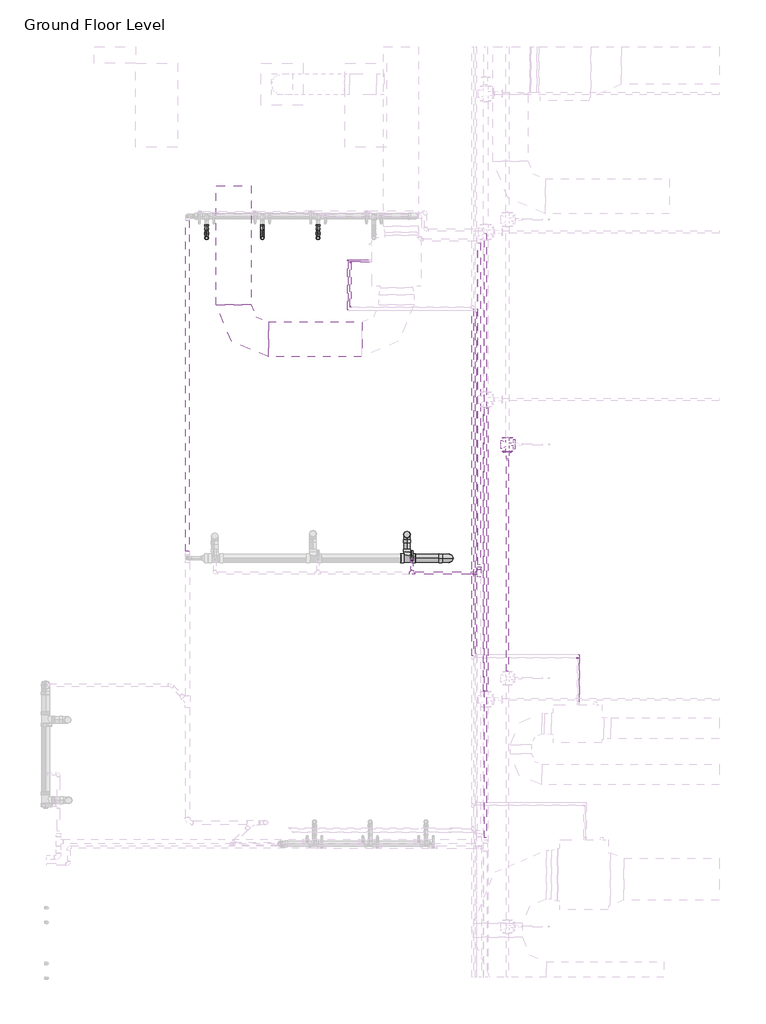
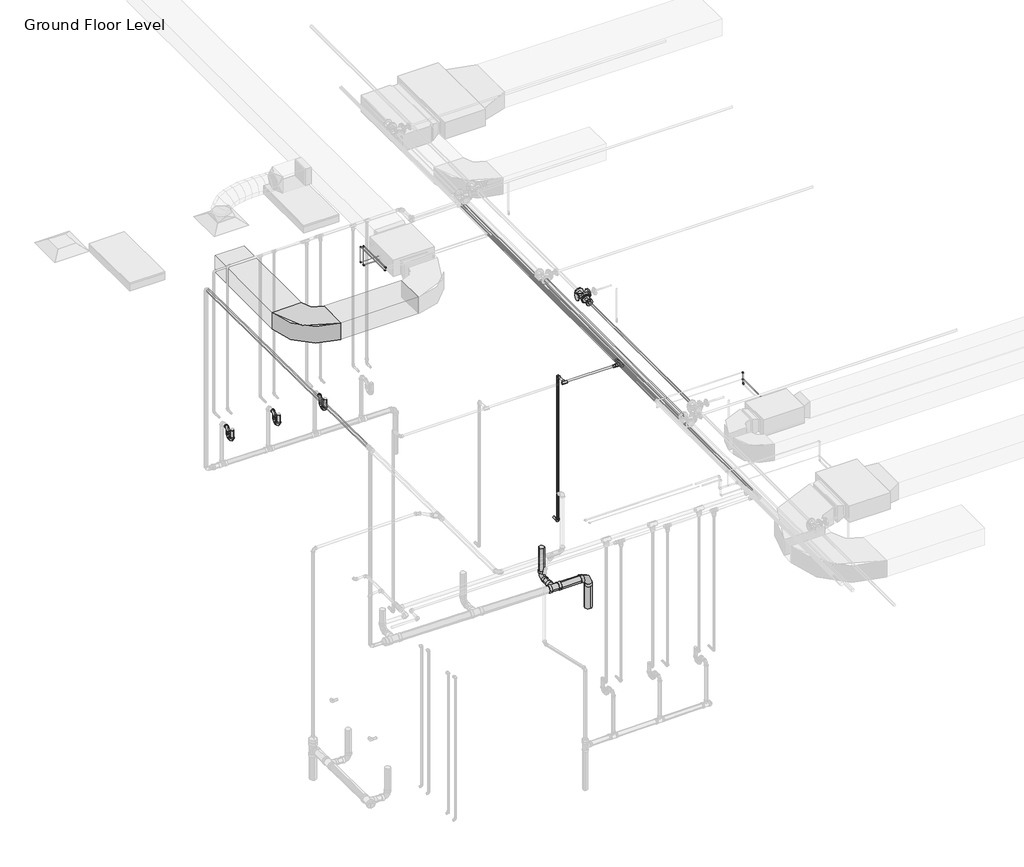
# One storey, part 20 of 66: 32 pipe segments, 29 pipe fittings, 2 duct segments, 1 duct fitting.
"""IFC4 building model written with IfcOpenShell, lengths in millimetres."""

from ifc_helpers import new_model, si_unit, point, frame, frame_2d, origin, place, context, project, spatial, polyline, circle_curve, trimmed, segment, composite_curve, outline, extrude, transform, mapped, element, save
from components import m_rectangular_elbow_radius_1_w_abe20169, m_bend_pvc_sch_40_dwv_standard_a4b99d37, m_bend_pvc_sch_40_dwv_standard_aa7efa4c, m_bend_pvc_sch_40_dwv_standard_1e7bdcc1, m_bend_pvc_sch_40_dwv_standard_776e50c4, m_elbow_generic_standard_a088f956, m_elbow_generic_standard_2a704253, m_reducer_flanged_cs_class_150_standard_b6b67c23, m_tee_reducing_sanitary_pvc_sch_40_dwv_standard_b49161a9, m_tee_round_base_flanged_cs_class_150_standard_9c9133d0, standard_517a5a8d, standard_72b35c3b, standard_08ff6011, standard_d0d0b892

model = new_model("IFC4")

# Units and contexts
model_context = context("Model", 3, world=origin())
ifc_project = project(units=[si_unit("LENGTHUNIT", "METRE", prefix="MILLI")], contexts=[model_context])

# Site, building, storey
site = spatial("IfcSite", under=ifc_project)
building = spatial("IfcBuilding", under=site)
storey = spatial("IfcBuildingStorey", under=building, Name="Ground Floor Level", Elevation=900.0)

# Duct fitting
placement = place(None, origin())
m_rectangular_elbow_radius_1_w_shape = m_rectangular_elbow_radius_1_w_abe20169(model_context)
element("IfcDuctFitting", 1, ObjectType="M_Rectangular Elbow - Radius : 1 W", at=placement, inside=storey, context=model_context, shape_type="MappedRepresentation", body=[
    mapped(m_rectangular_elbow_radius_1_w_shape, transform((2065.6581888, -25622.6440715, 4075.2875), x_axis=(0.0, -1.0, 0.0), y_axis=(1.0, 0.0, 0.0), z_axis=(0.0, 0.0, 1.0))),
])

# Duct segments
element("IfcDuctSegment", 2, ObjectType="Radius Elbows / Taps", at=placement, inside=storey, context=model_context, shape_type="SweptSolid", body=[
    extrude(outline(polyline([(0.0, -500.0), (0.0, 0.0), (1339.9999945, 0.0), (1339.9999945, -500.0), (0.0, -500.0)])), frame((3905.660192, -25872.6440715, 3925.3054453), z_axis=(-1.3392036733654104e-05, 0.0, 0.9999999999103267), x_axis=(-0.9999999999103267, 0.0, -1.3392036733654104e-05)), (0.0, 0.0, 1.0), 300.0),
])
element("IfcDuctSegment", 3, ObjectType="Radius Elbows / Taps", at=placement, inside=storey, context=model_context, shape_type="SweptSolid", body=[
    extrude(outline(polyline([(2315.6581888, -25122.6440715), (1815.6581888, -25122.6440715), (1815.6581888, -23422.6440715), (2315.6581888, -23422.6440715), (2315.6581888, -25122.6440715)])), frame((0.0, 0.0, 3925.2875), z_axis=(0.0, 0.0, 1.0), x_axis=(1.0, 0.0, 0.0)), (0.0, 0.0, 1.0), 300.0),
])

# Pipe fittings
m_bend_pvc_sch_40_dwv_standard_shape = m_bend_pvc_sch_40_dwv_standard_a4b99d37(model_context)
element("IfcPipeFitting", 4, ObjectType="M_Bend - PVC - Sch 40 - DWV : Standard", at=placement, inside=storey, context=model_context, shape_type="MappedRepresentation", body=[
    mapped(m_bend_pvc_sch_40_dwv_standard_shape, transform((4553.7150181, -28421.2419494, 454.489269), x_axis=(0.0, 0.0, -1.0), y_axis=(0.0, -1.0, 0.0), z_axis=(-1.0, 0.0, 0.0))),
])
m_bend_pvc_sch_40_dwv_standard_2_shape = m_bend_pvc_sch_40_dwv_standard_aa7efa4c(model_context)
element("IfcPipeFitting", 5, ObjectType="M_Bend - PVC - Sch 40 - DWV : Standard", at=placement, inside=storey, context=model_context, shape_type="MappedRepresentation", body=[
    mapped(m_bend_pvc_sch_40_dwv_standard_2_shape, transform((5158.4803359, -28761.5689421, 448.4416158), x_axis=(0.9999500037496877, 0.0, -0.00999950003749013), y_axis=(-0.00999950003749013, 0.0, -0.9999500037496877), z_axis=(0.0, 1.0, 0.0))),
])
m_bend_pvc_sch_40_dwv_standard_3_shape = m_bend_pvc_sch_40_dwv_standard_1e7bdcc1(model_context)
element("IfcPipeFitting", 6, ObjectType="M_Bend - PVC - Sch 40 - DWV : Standard", at=placement, inside=storey, context=model_context, shape_type="MappedRepresentation", body=[
    mapped(m_bend_pvc_sch_40_dwv_standard_3_shape, transform((1678.7498, -24168.3528578, 1360.0000049), x_axis=(0.0, 0.0, -1.0), y_axis=(0.0, 1.0, 0.0), z_axis=(1.0, 0.0, 0.0))),
])
element("IfcPipeFitting", 7, ObjectType="M_Bend - PVC - Sch 40 - DWV : Standard", at=placement, inside=storey, context=model_context, shape_type="MappedRepresentation", body=[
    mapped(m_bend_pvc_sch_40_dwv_standard_3_shape, transform((2478.7498, -24168.3528578, 1360.00001), x_axis=(0.0, -0.9999500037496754, 0.009999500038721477), y_axis=(0.0, 0.009999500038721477, 0.9999500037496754), z_axis=(-1.0, 0.0, 0.0))),
])
element("IfcPipeFitting", 8, ObjectType="M_Bend - PVC - Sch 40 - DWV : Standard", at=placement, inside=storey, context=model_context, shape_type="MappedRepresentation", body=[
    mapped(m_bend_pvc_sch_40_dwv_standard_3_shape, transform((3278.7498, -24168.3528578, 1360.0000049), x_axis=(0.0, -0.9999500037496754, 0.009999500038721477), y_axis=(0.0, 0.009999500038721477, 0.9999500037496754), z_axis=(-1.0, 0.0, 0.0))),
])
m_bend_pvc_sch_40_dwv_standard_4_shape = m_bend_pvc_sch_40_dwv_standard_776e50c4(model_context)
element("IfcPipeFitting", 9, ObjectType="M_Bend - PVC - Sch 40 - DWV : Standard", at=placement, inside=storey, context=model_context, shape_type="MappedRepresentation", body=[
    mapped(m_bend_pvc_sch_40_dwv_standard_4_shape, transform((1678.7498, -24038.3523645, 1358.7), x_axis=(0.0, 0.9999500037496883, -0.009999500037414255), y_axis=(0.0, 0.009999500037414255, 0.9999500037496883), z_axis=(1.0, 0.0, 0.0))),
])
element("IfcPipeFitting", 10, ObjectType="M_Bend - PVC - Sch 40 - DWV : Standard", at=placement, inside=storey, context=model_context, shape_type="MappedRepresentation", body=[
    mapped(m_bend_pvc_sch_40_dwv_standard_4_shape, transform((1678.7498, -24038.3523645, 1510.0493267), x_axis=(0.0, 0.0, 1.0), y_axis=(0.0, 1.0, 0.0), z_axis=(-1.0, 0.0, 0.0))),
])
element("IfcPipeFitting", 11, ObjectType="M_Bend - PVC - Sch 40 - DWV : Standard", at=placement, inside=storey, context=model_context, shape_type="MappedRepresentation", body=[
    mapped(m_bend_pvc_sch_40_dwv_standard_4_shape, transform((2478.7498, -24038.3518579, 1358.7), x_axis=(0.0, 0.9999500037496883, -0.009999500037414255), y_axis=(0.0, 0.009999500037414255, 0.9999500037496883), z_axis=(1.0, 0.0, 0.0))),
])
element("IfcPipeFitting", 12, ObjectType="M_Bend - PVC - Sch 40 - DWV : Standard", at=placement, inside=storey, context=model_context, shape_type="MappedRepresentation", body=[
    mapped(m_bend_pvc_sch_40_dwv_standard_4_shape, transform((2478.7498, -24038.3518579, 1510.09999), x_axis=(0.0, 0.0, 1.0), y_axis=(0.0, 1.0, 0.0), z_axis=(-1.0, 0.0, 0.0))),
])
element("IfcPipeFitting", 13, ObjectType="M_Bend - PVC - Sch 40 - DWV : Standard", at=placement, inside=storey, context=model_context, shape_type="MappedRepresentation", body=[
    mapped(m_bend_pvc_sch_40_dwv_standard_4_shape, transform((3278.7498, -24038.3523645, 1358.7), x_axis=(0.0, 0.9999500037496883, -0.009999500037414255), y_axis=(0.0, 0.009999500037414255, 0.9999500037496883), z_axis=(1.0, 0.0, 0.0))),
])
element("IfcPipeFitting", 14, ObjectType="M_Bend - PVC - Sch 40 - DWV : Standard", at=placement, inside=storey, context=model_context, shape_type="MappedRepresentation", body=[
    mapped(m_bend_pvc_sch_40_dwv_standard_4_shape, transform((3278.7498, -24038.3523645, 1510.0493267), x_axis=(0.0, 0.0, 1.0), y_axis=(0.0, 1.0, 0.0), z_axis=(-1.0, 0.0, 0.0))),
])
m_elbow_generic_standard_shape = m_elbow_generic_standard_a088f956(model_context)
element("IfcPipeFitting", 15, ObjectType="M_Elbow - Generic : Standard", at=placement, inside=storey, context=model_context, shape_type="MappedRepresentation", body=[
    mapped(m_elbow_generic_standard_shape, transform((7003.8644074, -30187.4513653, 4390.0), x_axis=(1.0, 0.0, 0.0), y_axis=(0.0, 0.0, -1.0), z_axis=(0.0, 1.0, 0.0))),
])
element("IfcPipeFitting", 16, ObjectType="M_Elbow - Generic : Standard", at=placement, inside=storey, context=model_context, shape_type="MappedRepresentation", body=[
    mapped(m_elbow_generic_standard_shape, transform((7003.8644074, -30187.4513653, 4180.0), x_axis=(0.0, 0.0, -1.0), y_axis=(0.0, -1.0, 0.0), z_axis=(-1.0, 0.0, 0.0))),
])
element("IfcPipeFitting", 17, ObjectType="M_Elbow - Generic : Standard", at=placement, inside=storey, context=model_context, shape_type="MappedRepresentation", body=[
    mapped(m_elbow_generic_standard_shape, transform((3741.7995393, -24507.2440715, 4034.0875), x_axis=(-1.0, 0.0, 0.0), y_axis=(0.0, 0.0, 1.0), z_axis=(0.0, 1.0, 0.0))),
])
element("IfcPipeFitting", 18, ObjectType="M_Elbow - Generic : Standard", at=placement, inside=storey, context=model_context, shape_type="MappedRepresentation", body=[
    mapped(m_elbow_generic_standard_shape, transform((3741.7995393, -24507.2440715, 4390.0), x_axis=(0.0, 0.0, 1.0), y_axis=(0.0, -1.0, 0.0), z_axis=(1.0, 0.0, 0.0))),
])
element("IfcPipeFitting", 19, ObjectType="M_Elbow - Generic : Standard", at=placement, inside=storey, context=model_context, shape_type="MappedRepresentation", body=[
    mapped(m_elbow_generic_standard_shape, transform((3741.7995393, -25162.0896488, 4390.0), x_axis=(0.0, -1.0, 0.0), y_axis=(1.0, 0.0, 0.0), z_axis=(0.0, 0.0, 1.0))),
])
m_elbow_generic_standard_2_shape = m_elbow_generic_standard_2a704253(model_context)
element("IfcPipeFitting", 20, ObjectType="M_Elbow - Generic : Standard", at=placement, inside=storey, context=model_context, shape_type="MappedRepresentation", body=[
    mapped(m_elbow_generic_standard_2_shape, transform((3705.4496688, -24482.2440715, 4084.8875), x_axis=(-1.0, 0.0, 0.0), y_axis=(0.0, 0.0, 1.0), z_axis=(0.0, 1.0, 0.0))),
])
element("IfcPipeFitting", 21, ObjectType="M_Elbow - Generic : Standard", at=placement, inside=storey, context=model_context, shape_type="MappedRepresentation", body=[
    mapped(m_elbow_generic_standard_2_shape, transform((3705.4496688, -24482.2440715, 4377.5), x_axis=(0.0, 0.0, 1.0), y_axis=(0.0, -1.0, 0.0), z_axis=(1.0, 0.0, 0.0))),
])
element("IfcPipeFitting", 22, ObjectType="M_Elbow - Generic : Standard", at=placement, inside=storey, context=model_context, shape_type="MappedRepresentation", body=[
    mapped(m_elbow_generic_standard_2_shape, transform((3705.4496688, -25206.4899508, 4377.5), x_axis=(0.0, -1.0, 0.0), y_axis=(1.0, 0.0, 0.0), z_axis=(0.0, 0.0, 1.0))),
])
element("IfcPipeFitting", 23, ObjectType="M_Elbow - Generic : Standard", at=placement, inside=storey, context=model_context, shape_type="MappedRepresentation", body=[
    mapped(m_elbow_generic_standard_2_shape, transform((7028.8644074, -30144.9316538, 4230.8), x_axis=(0.0, 1.0, 0.0), y_axis=(-1.0, 0.0, 0.0), z_axis=(0.0, 0.0, 1.0))),
])
m_reducer_flanged_cs_class_150_standard_shape = m_reducer_flanged_cs_class_150_standard_b6b67c23(model_context)
element("IfcPipeFitting", 24, ObjectType="M_Reducer - Flanged - CS - Class 150 : Standard", at=placement, inside=storey, context=model_context, shape_type="MappedRepresentation", body=[
    mapped(m_reducer_flanged_cs_class_150_standard_shape, transform((5997.057812, -27235.4968297, 4291.0943441), x_axis=(0.0, -1.0, 0.0), y_axis=(1.0, 0.0, 0.0), z_axis=(0.0, 0.0, 1.0))),
])
m_tee_reducing_sanitary_pvc_sch_40_dwv_standard_shape = m_tee_reducing_sanitary_pvc_sch_40_dwv_standard_b49161a9(model_context)
element("IfcPipeFitting", 25, ObjectType="M_Tee Reducing Sanitary - PVC - Sch 40 - DWV : Standard", at=placement, inside=storey, context=model_context, shape_type="MappedRepresentation", body=[
    mapped(m_tee_reducing_sanitary_pvc_sch_40_dwv_standard_shape, transform((4553.7150181, -28761.5689421, 454.489269), x_axis=(-0.9999500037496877, 0.0, 0.009999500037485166), y_axis=(0.0, -1.0, 0.0), z_axis=(0.009999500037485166, 0.0, 0.9999500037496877))),
])
m_tee_round_base_flanged_cs_class_150_standard_shape = m_tee_round_base_flanged_cs_class_150_standard_9c9133d0(model_context)
element("IfcPipeFitting", 26, ObjectType="M_Tee Round Base - Flanged - CS - Class 150 : Standard", at=placement, inside=storey, context=model_context, shape_type="MappedRepresentation", body=[
    mapped(m_tee_round_base_flanged_cs_class_150_standard_shape, transform((5997.057812, -27129.3982359, 4291.0943441), x_axis=(0.0, 1.0, 0.0), y_axis=(-1.0, 0.0, 0.0), z_axis=(0.0, 0.0, 1.0))),
])
standard_shape = standard_517a5a8d(model_context)
element("IfcPipeFitting", 27, ObjectType="M_Elbow - CPVC - Sch 40 : Standard", at=placement, inside=storey, context=model_context, shape_type="MappedRepresentation", body=[
    mapped(standard_shape, transform((4627.1152882, -28774.7846466, 1655.0), x_axis=(0.0, -1.0, 0.0), y_axis=(0.0, 0.0, 1.0), z_axis=(-1.0, 0.0, 0.0))),
])
element("IfcPipeFitting", 28, ObjectType="M_Elbow - CPVC - Sch 40 : Standard", at=placement, inside=storey, context=model_context, shape_type="MappedRepresentation", body=[
    mapped(standard_shape, transform((4627.1152882, -28774.7846466, 4300.0), x_axis=(0.0, 0.0, 1.0), y_axis=(0.0, -1.0, 0.0), z_axis=(1.0, 0.0, 0.0))),
])
standard_2_shape = standard_72b35c3b(model_context)
element("IfcPipeFitting", 29, ObjectType="M_Tee - CPVC - Sch 40 : Standard", at=placement, inside=storey, context=model_context, shape_type="MappedRepresentation", body=[
    mapped(standard_2_shape, transform((4627.1152882, -28974.7846466, 4300.0), x_axis=(-1.0, 0.0, 0.0), y_axis=(0.0, -1.0, 0.0), z_axis=(0.0, 0.0, 1.0))),
])
standard_3_shape = standard_08ff6011(model_context)
element("IfcPipeFitting", 30, ObjectType="M_Tee - CPVC - Sch 40 : Standard", at=placement, inside=storey, context=model_context, shape_type="MappedRepresentation", body=[
    mapped(standard_3_shape, transform((5589.646628, -28974.7846466, 4300.0), x_axis=(0.0, 1.0, 0.0), y_axis=(1.0, 0.0, 0.0), z_axis=(0.0, 0.0, -1.0))),
])
standard_4_shape = standard_d0d0b892(model_context)
element("IfcPipeFitting", 31, ObjectType="M_Coupling Reducing - CPVC - Sch 40 : Standard", at=placement, inside=storey, context=model_context, shape_type="MappedRepresentation", body=[
    mapped(standard_4_shape, transform((5589.646628, -28920.8096466, 4300.0), x_axis=(0.0, 1.0, 0.0), y_axis=(-1.0, 0.0, 0.0), z_axis=(0.0, 0.0, 1.0))),
])
element("IfcPipeFitting", 32, ObjectType="M_Coupling Reducing - CPVC - Sch 40 : Standard", at=placement, inside=storey, context=model_context, shape_type="MappedRepresentation", body=[
    mapped(standard_4_shape, transform((5535.671628, -28974.7846466, 4300.0), x_axis=(-1.0, 0.0, 0.0), y_axis=(0.0, -1.0, 0.0), z_axis=(0.0, 0.0, 1.0))),
])

# Pipe segments
element("IfcPipeSegment", 33, ObjectType="CPVC", at=placement, inside=storey, context=model_context, shape_type="SweptSolid", body=[
    extrude(outline(composite_curve([segment(trimmed(circle_curve(frame_2d((1655.0, 4627.1152882)), 16.7005), [point((1655.0, 4610.4147882))], [point((1638.2995, 4627.1152882))], False, "CARTESIAN"), True, "CONTINUOUS"), segment(trimmed(circle_curve(frame_2d((1655.0, 4627.1152882)), 16.7005), [point((1638.2995, 4627.1152882))], [point((1655.0, 4643.8157882))], False, "CARTESIAN"), True, "CONTINUOUS"), segment(trimmed(circle_curve(frame_2d((1655.0, 4627.1152882)), 16.7005), [point((1655.0, 4643.8157882))], [point((1671.7005, 4627.1152882))], False, "CARTESIAN"), True, "CONTINUOUS"), segment(trimmed(circle_curve(frame_2d((1655.0, 4627.1152882)), 16.7005), [point((1671.7005, 4627.1152882))], [point((1655.0, 4610.4147882))], False, "CARTESIAN"), True, "CONTINUOUS")], self_intersect=False)), frame((0.0, -28731.5220966, 0.0), z_axis=(0.0, 1.0, 0.0), x_axis=(0.0, 0.0, 1.0)), (0.0, 0.0, 1.0), 76.73745),
])
element("IfcPipeSegment", 34, ObjectType="CPVC", at=placement, inside=storey, context=model_context, shape_type="SweptSolid", body=[
    extrude(outline(composite_curve([segment(trimmed(circle_curve(frame_2d((4300.0, 4627.1152882)), 16.7005), [point((4300.0, 4610.4147882))], [point((4283.2995, 4627.1152882))], False, "CARTESIAN"), True, "CONTINUOUS"), segment(trimmed(circle_curve(frame_2d((4300.0, 4627.1152882)), 16.7005), [point((4283.2995, 4627.1152882))], [point((4300.0, 4643.8157882))], False, "CARTESIAN"), True, "CONTINUOUS"), segment(trimmed(circle_curve(frame_2d((4300.0, 4627.1152882)), 16.7005), [point((4300.0, 4643.8157882))], [point((4316.7005, 4627.1152882))], False, "CARTESIAN"), True, "CONTINUOUS"), segment(trimmed(circle_curve(frame_2d((4300.0, 4627.1152882)), 16.7005), [point((4316.7005, 4627.1152882))], [point((4300.0, 4610.4147882))], False, "CARTESIAN"), True, "CONTINUOUS")], self_intersect=False)), frame((0.0, -28935.0844466, 0.0), z_axis=(0.0, 1.0, 0.0), x_axis=(0.0, 0.0, 1.0)), (0.0, 0.0, 1.0), 117.03725),
])
element("IfcPipeSegment", 35, ObjectType="CPVC", at=placement, inside=storey, context=model_context, shape_type="SweptSolid", body=[
    extrude(outline(composite_curve([segment(trimmed(circle_curve(frame_2d((4627.1152882, -28774.7846466)), 16.7005), [point((4610.4147882, -28774.7846466))], [point((4627.1152882, -28758.0841466))], False, "CARTESIAN"), True, "CONTINUOUS"), segment(trimmed(circle_curve(frame_2d((4627.1152882, -28774.7846466)), 16.7005), [point((4627.1152882, -28758.0841466))], [point((4643.8157882, -28774.7846466))], False, "CARTESIAN"), True, "CONTINUOUS"), segment(trimmed(circle_curve(frame_2d((4627.1152882, -28774.7846466)), 16.7005), [point((4643.8157882, -28774.7846466))], [point((4627.1152882, -28791.4851466))], False, "CARTESIAN"), True, "CONTINUOUS"), segment(trimmed(circle_curve(frame_2d((4627.1152882, -28774.7846466)), 16.7005), [point((4627.1152882, -28791.4851466))], [point((4610.4147882, -28774.7846466))], False, "CARTESIAN"), True, "CONTINUOUS")], self_intersect=False)), frame((0.0, 0.0, 1698.26255), z_axis=(0.0, 0.0, 1.0), x_axis=(1.0, 0.0, 0.0)), (0.0, 0.0, 1.0), 2558.4749),
])
element("IfcPipeSegment", 36, ObjectType="CPVC", at=placement, inside=storey, context=model_context, shape_type="SweptSolid", body=[
    extrude(outline(composite_curve([segment(trimmed(circle_curve(frame_2d((-28974.7846466, 4300.0)), 16.7005), [point((-28958.0841466, 4300.0))], [point((-28974.7846466, 4283.2995))], False, "CARTESIAN"), True, "CONTINUOUS"), segment(trimmed(circle_curve(frame_2d((-28974.7846466, 4300.0)), 16.7005), [point((-28974.7846466, 4283.2995))], [point((-28991.4851466, 4300.0))], False, "CARTESIAN"), True, "CONTINUOUS"), segment(trimmed(circle_curve(frame_2d((-28974.7846466, 4300.0)), 16.7005), [point((-28991.4851466, 4300.0))], [point((-28974.7846466, 4316.7005))], False, "CARTESIAN"), True, "CONTINUOUS"), segment(trimmed(circle_curve(frame_2d((-28974.7846466, 4300.0)), 16.7005), [point((-28974.7846466, 4316.7005))], [point((-28958.0841466, 4300.0))], False, "CARTESIAN"), True, "CONTINUOUS")], self_intersect=False)), frame((4666.8154882, 0.0, 0.0), z_axis=(1.0, 0.0, 0.0), x_axis=(0.0, 1.0, 0.0)), (0.0, 0.0, 1.0), 802.7372648),
])
element("IfcPipeSegment", 37, ObjectType="CPVC", at=placement, inside=storey, context=model_context, shape_type="SweptSolid", body=[
    extrude(outline(composite_curve([segment(trimmed(circle_curve(frame_2d((4300.0, 5589.646628)), 16.7005), [point((4300.0, 5572.946128))], [point((4283.2995, 5589.646628))], False, "CARTESIAN"), True, "CONTINUOUS"), segment(trimmed(circle_curve(frame_2d((4300.0, 5589.646628)), 16.7005), [point((4283.2995, 5589.646628))], [point((4300.0, 5606.347128))], False, "CARTESIAN"), True, "CONTINUOUS"), segment(trimmed(circle_curve(frame_2d((4300.0, 5589.646628)), 16.7005), [point((4300.0, 5606.347128))], [point((4316.7005, 5589.646628))], False, "CARTESIAN"), True, "CONTINUOUS"), segment(trimmed(circle_curve(frame_2d((4300.0, 5589.646628)), 16.7005), [point((4316.7005, 5589.646628))], [point((4300.0, 5572.946128))], False, "CARTESIAN"), True, "CONTINUOUS")], self_intersect=False)), frame((0.0, -28854.6907716, 0.0), z_axis=(0.0, 1.0, 0.0), x_axis=(0.0, 0.0, 1.0)), (0.0, 0.0, 1.0), 4615.6456784),
])
element("IfcPipeSegment", 38, ObjectType="CPVC", at=placement, inside=storey, context=model_context, shape_type="SweptSolid", body=[
    extrude(outline(composite_curve([segment(trimmed(circle_curve(frame_2d((4250.0, 5680.5575802)), 16.7005), [point((4250.0, 5697.2580802))], [point((4266.7005, 5680.5575802))], False, "CARTESIAN"), True, "CONTINUOUS"), segment(trimmed(circle_curve(frame_2d((4250.0, 5680.5575802)), 16.7005), [point((4266.7005, 5680.5575802))], [point((4250.0, 5663.8570802))], False, "CARTESIAN"), True, "CONTINUOUS"), segment(trimmed(circle_curve(frame_2d((4250.0, 5680.5575802)), 16.7005), [point((4250.0, 5663.8570802))], [point((4233.2995, 5680.5575802))], False, "CARTESIAN"), True, "CONTINUOUS"), segment(trimmed(circle_curve(frame_2d((4250.0, 5680.5575802)), 16.7005), [point((4233.2995, 5680.5575802))], [point((4250.0, 5697.2580802))], False, "CARTESIAN"), True, "CONTINUOUS")], self_intersect=False)), frame((0.0, -32774.921633, 0.0), z_axis=(0.0, 1.0, 0.0), x_axis=(0.0, 0.0, 1.0)), (0.0, 0.0, 1.0), 8676.73745),
])
element("IfcPipeSegment", 39, ObjectType="Copper", at=placement, inside=storey, context=model_context, shape_type="SweptSolid", body=[
    extrude(outline(composite_curve([segment(trimmed(circle_curve(frame_2d((4230.8, 7028.8644074)), 3.35), [point((4230.8, 7025.5144074))], [point((4227.45, 7028.8644074))], False, "CARTESIAN"), True, "CONTINUOUS"), segment(trimmed(circle_curve(frame_2d((4230.8, 7028.8644074)), 3.35), [point((4227.45, 7028.8644074))], [point((4230.8, 7032.2144074))], False, "CARTESIAN"), True, "CONTINUOUS"), segment(trimmed(circle_curve(frame_2d((4230.8, 7028.8644074)), 3.35), [point((4230.8, 7032.2144074))], [point((4234.15, 7028.8644074))], False, "CARTESIAN"), True, "CONTINUOUS"), segment(trimmed(circle_curve(frame_2d((4230.8, 7028.8644074)), 3.35), [point((4234.15, 7028.8644074))], [point((4230.8, 7025.5144074))], False, "CARTESIAN"), True, "CONTINUOUS")], self_intersect=False)), frame((0.0, -30823.5877703, 0.0), z_axis=(0.0, 1.0, 0.0), x_axis=(0.0, 0.0, 1.0)), (0.0, 0.0, 1.0), 667.5186165),
])
element("IfcPipeSegment", 40, ObjectType="Copper", at=placement, inside=storey, context=model_context, shape_type="SweptSolid", body=[
    extrude(outline(composite_curve([segment(trimmed(circle_curve(frame_2d((7003.8644074, -30187.4513653)), 6.5), [point((7010.3644074, -30187.4513653))], [point((7003.8644074, -30193.9513653))], False, "CARTESIAN"), True, "CONTINUOUS"), segment(trimmed(circle_curve(frame_2d((7003.8644074, -30187.4513653)), 6.5), [point((7003.8644074, -30193.9513653))], [point((6997.3644074, -30187.4513653))], False, "CARTESIAN"), True, "CONTINUOUS"), segment(trimmed(circle_curve(frame_2d((7003.8644074, -30187.4513653)), 6.5), [point((6997.3644074, -30187.4513653))], [point((7003.8644074, -30180.9513653))], False, "CARTESIAN"), True, "CONTINUOUS"), segment(trimmed(circle_curve(frame_2d((7003.8644074, -30187.4513653)), 6.5), [point((7003.8644074, -30180.9513653))], [point((7010.3644074, -30187.4513653))], False, "CARTESIAN"), True, "CONTINUOUS")], self_intersect=False)), frame((0.0, 0.0, 4194.2875), z_axis=(0.0, 0.0, 1.0), x_axis=(1.0, 0.0, 0.0)), (0.0, 0.0, 1.0), 181.425),
])
element("IfcPipeSegment", 41, ObjectType="Copper", at=placement, inside=storey, context=model_context, shape_type="SweptSolid", body=[
    extrude(outline(composite_curve([segment(trimmed(circle_curve(frame_2d((4377.5, 3705.4496688)), 3.35), [point((4377.5, 3702.0996688))], [point((4374.15, 3705.4496688))], False, "CARTESIAN"), True, "CONTINUOUS"), segment(trimmed(circle_curve(frame_2d((4377.5, 3705.4496688)), 3.35), [point((4374.15, 3705.4496688))], [point((4377.5, 3708.7996688))], False, "CARTESIAN"), True, "CONTINUOUS"), segment(trimmed(circle_curve(frame_2d((4377.5, 3705.4496688)), 3.35), [point((4377.5, 3708.7996688))], [point((4380.85, 3705.4496688))], False, "CARTESIAN"), True, "CONTINUOUS"), segment(trimmed(circle_curve(frame_2d((4377.5, 3705.4496688)), 3.35), [point((4380.85, 3705.4496688))], [point((4377.5, 3702.0996688))], False, "CARTESIAN"), True, "CONTINUOUS")], self_intersect=False)), frame((0.0, -25195.3524508, 0.0), z_axis=(0.0, 1.0, 0.0), x_axis=(0.0, 0.0, 1.0)), (0.0, 0.0, 1.0), 701.9708793),
])
element("IfcPipeSegment", 42, ObjectType="Copper", at=placement, inside=storey, context=model_context, shape_type="SweptSolid", body=[
    extrude(outline(composite_curve([segment(trimmed(circle_curve(frame_2d((4390.0, 3741.7995393)), 6.5), [point((4390.0, 3735.2995393))], [point((4383.5, 3741.7995393))], False, "CARTESIAN"), True, "CONTINUOUS"), segment(trimmed(circle_curve(frame_2d((4390.0, 3741.7995393)), 6.5), [point((4383.5, 3741.7995393))], [point((4390.0, 3748.2995393))], False, "CARTESIAN"), True, "CONTINUOUS"), segment(trimmed(circle_curve(frame_2d((4390.0, 3741.7995393)), 6.5), [point((4390.0, 3748.2995393))], [point((4396.5, 3741.7995393))], False, "CARTESIAN"), True, "CONTINUOUS"), segment(trimmed(circle_curve(frame_2d((4390.0, 3741.7995393)), 6.5), [point((4396.5, 3741.7995393))], [point((4390.0, 3735.2995393))], False, "CARTESIAN"), True, "CONTINUOUS")], self_intersect=False)), frame((0.0, -25147.8021488, 0.0), z_axis=(0.0, 1.0, 0.0), x_axis=(0.0, 0.0, 1.0)), (0.0, 0.0, 1.0), 626.2705772),
])
element("IfcPipeSegment", 43, ObjectType="Copper", at=placement, inside=storey, context=model_context, shape_type="SweptSolid", body=[
    extrude(outline(composite_curve([segment(trimmed(circle_curve(frame_2d((0.0, -6.5)), 6.5), [point((-6.5, -6.5))], [point((1e-07, 0.0))], False, "CARTESIAN"), True, "CONTINUOUS"), segment(trimmed(circle_curve(frame_2d((0.0, -6.5)), 6.5), [point((1e-07, 0.0))], [point((6.5, -6.5))], False, "CARTESIAN"), True, "CONTINUOUS"), segment(trimmed(circle_curve(frame_2d((0.0, -6.5)), 6.5), [point((6.5, -6.5))], [point((0.0, -13.0))], False, "CARTESIAN"), True, "CONTINUOUS"), segment(trimmed(circle_curve(frame_2d((0.0, -6.5)), 6.5), [point((0.0, -13.0))], [point((-6.5, -6.5))], False, "CARTESIAN"), True, "CONTINUOUS")], self_intersect=False)), frame((3756.0874855, -24507.2440715, 4027.5875), z_axis=(0.9999999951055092, -7.12643563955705e-05, 6.86321587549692e-05), x_axis=(-7.126435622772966e-05, -0.9999999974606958, -4.891026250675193e-09)), (0.0, 0.0, 1.0), 261.4711452),
])
element("IfcPipeSegment", 44, ObjectType="Copper", at=placement, inside=storey, context=model_context, shape_type="SweptSolid", body=[
    extrude(outline(composite_curve([segment(trimmed(circle_curve(frame_2d((0.0, -3.35)), 3.35), [point((-3.35, -3.35))], [point((0.0, 0.0))], False, "CARTESIAN"), True, "CONTINUOUS"), segment(trimmed(circle_curve(frame_2d((0.0, -3.35)), 3.35), [point((0.0, 0.0))], [point((3.35, -3.35))], False, "CARTESIAN"), True, "CONTINUOUS"), segment(trimmed(circle_curve(frame_2d((0.0, -3.35)), 3.35), [point((3.35, -3.35))], [point((0.0, -6.7))], False, "CARTESIAN"), True, "CONTINUOUS"), segment(trimmed(circle_curve(frame_2d((0.0, -3.35)), 3.35), [point((0.0, -6.7))], [point((-3.35, -3.35))], False, "CARTESIAN"), True, "CONTINUOUS")], self_intersect=False)), frame((3716.5873685, -24482.2440715, 4081.5375), z_axis=(0.9999999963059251, -6.191151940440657e-05, 5.962477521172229e-05), x_axis=(-6.191151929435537e-05, -0.999999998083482, -3.691459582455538e-09)), (0.0, 0.0, 1.0), 300.9710156),
])
element("IfcPipeSegment", 45, ObjectType="Copper", at=placement, inside=storey, context=model_context, shape_type="SweptSolid", body=[
    extrude(outline(composite_curve([segment(trimmed(circle_curve(frame_2d((3705.4496688, -24482.2440715)), 3.35), [point((3702.0996688, -24482.2440715))], [point((3705.4496688, -24478.8940715))], False, "CARTESIAN"), True, "CONTINUOUS"), segment(trimmed(circle_curve(frame_2d((3705.4496688, -24482.2440715)), 3.35), [point((3705.4496688, -24478.8940715))], [point((3708.7996688, -24482.2440715))], False, "CARTESIAN"), True, "CONTINUOUS"), segment(trimmed(circle_curve(frame_2d((3705.4496688, -24482.2440715)), 3.35), [point((3708.7996688, -24482.2440715))], [point((3705.4496688, -24485.5940715))], False, "CARTESIAN"), True, "CONTINUOUS"), segment(trimmed(circle_curve(frame_2d((3705.4496688, -24482.2440715)), 3.35), [point((3705.4496688, -24485.5940715))], [point((3702.0996688, -24482.2440715))], False, "CARTESIAN"), True, "CONTINUOUS")], self_intersect=False)), frame((0.0, 0.0, 4096.025), z_axis=(0.0, 0.0, 1.0), x_axis=(1.0, 0.0, 0.0)), (0.0, 0.0, 1.0), 270.3375),
])
element("IfcPipeSegment", 46, ObjectType="Copper", at=placement, inside=storey, context=model_context, shape_type="SweptSolid", body=[
    extrude(outline(composite_curve([segment(trimmed(circle_curve(frame_2d((3741.7995393, -24507.2440715)), 6.5), [point((3735.2995393, -24507.2440715))], [point((3741.7995393, -24500.7440715))], False, "CARTESIAN"), True, "CONTINUOUS"), segment(trimmed(circle_curve(frame_2d((3741.7995393, -24507.2440715)), 6.5), [point((3741.7995393, -24500.7440715))], [point((3748.2995393, -24507.2440715))], False, "CARTESIAN"), True, "CONTINUOUS"), segment(trimmed(circle_curve(frame_2d((3741.7995393, -24507.2440715)), 6.5), [point((3748.2995393, -24507.2440715))], [point((3741.7995393, -24513.7440715))], False, "CARTESIAN"), True, "CONTINUOUS"), segment(trimmed(circle_curve(frame_2d((3741.7995393, -24507.2440715)), 6.5), [point((3741.7995393, -24513.7440715))], [point((3735.2995393, -24507.2440715))], False, "CARTESIAN"), True, "CONTINUOUS")], self_intersect=False)), frame((0.0, 0.0, 4048.375), z_axis=(0.0, 0.0, 1.0), x_axis=(1.0, 0.0, 0.0)), (0.0, 0.0, 1.0), 327.3375),
])
element("IfcPipeSegment", 47, ObjectType="Copper", at=placement, inside=storey, context=model_context, shape_type="SweptSolid", body=[
    extrude(outline(composite_curve([segment(trimmed(circle_curve(frame_2d((4377.5, 5543.9904113)), 6.5), [point((4377.5, 5550.4904113))], [point((4384.0, 5543.9904113))], False, "CARTESIAN"), True, "CONTINUOUS"), segment(trimmed(circle_curve(frame_2d((4377.5, 5543.9904113)), 6.5), [point((4384.0, 5543.9904113))], [point((4377.5, 5537.4904113))], False, "CARTESIAN"), True, "CONTINUOUS"), segment(trimmed(circle_curve(frame_2d((4377.5, 5543.9904113)), 6.5), [point((4377.5, 5537.4904113))], [point((4371.0, 5543.9904113))], False, "CARTESIAN"), True, "CONTINUOUS"), segment(trimmed(circle_curve(frame_2d((4377.5, 5543.9904113)), 6.5), [point((4371.0, 5543.9904113))], [point((4377.5, 5550.4904113))], False, "CARTESIAN"), True, "CONTINUOUS")], self_intersect=False)), frame((0.0, -30124.2941538, 0.0), z_axis=(0.0, 1.0, 0.0), x_axis=(0.0, 0.0, 1.0)), (0.0, 0.0, 1.0), 4897.166703),
])
element("IfcPipeSegment", 48, ObjectType="Copper", at=placement, inside=storey, context=model_context, shape_type="SweptSolid", body=[
    extrude(outline(composite_curve([segment(trimmed(circle_curve(frame_2d((4390.0, 5497.8951827)), 9.75), [point((4390.0, 5507.6451827))], [point((4399.75, 5497.8951827))], False, "CARTESIAN"), True, "CONTINUOUS"), segment(trimmed(circle_curve(frame_2d((4390.0, 5497.8951827)), 9.75), [point((4399.75, 5497.8951827))], [point((4390.0, 5488.1451827))], False, "CARTESIAN"), True, "CONTINUOUS"), segment(trimmed(circle_curve(frame_2d((4390.0, 5497.8951827)), 9.75), [point((4390.0, 5488.1451827))], [point((4380.25, 5497.8951827))], False, "CARTESIAN"), True, "CONTINUOUS"), segment(trimmed(circle_curve(frame_2d((4390.0, 5497.8951827)), 9.75), [point((4380.25, 5497.8951827))], [point((4390.0, 5507.6451827))], False, "CARTESIAN"), True, "CONTINUOUS")], self_intersect=False)), frame((0.0, -30163.6388653, 0.0), z_axis=(0.0, 1.0, 0.0), x_axis=(0.0, 0.0, 1.0)), (0.0, 0.0, 1.0), 4977.7367166),
])
element("IfcPipeSegment", 49, ObjectType="PVC - DWV", at=placement, inside=storey, context=model_context, shape_type="SweptSolid", body=[
    extrude(outline(composite_curve([segment(trimmed(circle_curve(frame_2d((1678.7498, -24168.3528578)), 24.13), [point((1702.8798, -24168.3528578))], [point((1678.7498, -24192.4828578))], False, "CARTESIAN"), True, "CONTINUOUS"), segment(trimmed(circle_curve(frame_2d((1678.7498, -24168.3528578)), 24.13), [point((1678.7498, -24192.4828578))], [point((1654.6198, -24168.3528578))], False, "CARTESIAN"), True, "CONTINUOUS"), segment(trimmed(circle_curve(frame_2d((1678.7498, -24168.3528578)), 24.13), [point((1654.6198, -24168.3528578))], [point((1678.7498, -24144.2228578))], False, "CARTESIAN"), True, "CONTINUOUS"), segment(trimmed(circle_curve(frame_2d((1678.7498, -24168.3528578)), 24.13), [point((1678.7498, -24144.2228578))], [point((1702.8798, -24168.3528578))], False, "CARTESIAN"), True, "CONTINUOUS")], self_intersect=False)), frame((0.0, 0.0, 1421.8998049), z_axis=(0.0, 0.0, 1.0), x_axis=(1.0, 0.0, 0.0)), (0.0, 0.0, 1.0), 128.1001951),
])
element("IfcPipeSegment", 50, ObjectType="PVC - DWV", at=placement, inside=storey, context=model_context, shape_type="SweptSolid", body=[
    extrude(outline(composite_curve([segment(trimmed(circle_curve(frame_2d((0.0, -24.1299999)), 24.13), [point((24.13, -24.1299999))], [point((0.0, -48.2599999))], False, "CARTESIAN"), True, "CONTINUOUS"), segment(trimmed(circle_curve(frame_2d((0.0, -24.1299999)), 24.13), [point((0.0, -48.2599999))], [point((-24.13, -24.1299999))], False, "CARTESIAN"), True, "CONTINUOUS"), segment(trimmed(circle_curve(frame_2d((0.0, -24.1299999)), 24.13), [point((-24.13, -24.1299999))], [point((0.0, 0.0))], False, "CARTESIAN"), True, "CONTINUOUS"), segment(trimmed(circle_curve(frame_2d((0.0, -24.1299999)), 24.13), [point((0.0, 0.0))], [point((24.13, -24.1299999))], False, "CARTESIAN"), True, "CONTINUOUS")], self_intersect=False)), frame((1678.7498, -24100.0077818, 1383.4477606), z_axis=(0.0, -0.9999500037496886, 0.0099995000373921), x_axis=(1.0, 0.0, 0.0)), (0.0, 0.0, 1.0), 6.2073931),
])
element("IfcPipeSegment", 51, ObjectType="PVC - DWV", at=placement, inside=storey, context=model_context, shape_type="SweptSolid", body=[
    extrude(outline(composite_curve([segment(trimmed(circle_curve(frame_2d((1678.7498, -24038.3523645)), 24.13), [point((1654.6198, -24038.3523645))], [point((1678.7498, -24014.2223645))], False, "CARTESIAN"), True, "CONTINUOUS"), segment(trimmed(circle_curve(frame_2d((1678.7498, -24038.3523645)), 24.13), [point((1678.7498, -24014.2223645))], [point((1702.8798, -24038.3523645))], False, "CARTESIAN"), True, "CONTINUOUS"), segment(trimmed(circle_curve(frame_2d((1678.7498, -24038.3523645)), 24.13), [point((1702.8798, -24038.3523645))], [point((1678.7498, -24062.4823645))], False, "CARTESIAN"), True, "CONTINUOUS"), segment(trimmed(circle_curve(frame_2d((1678.7498, -24038.3523645)), 24.13), [point((1678.7498, -24062.4823645))], [point((1654.6198, -24038.3523645))], False, "CARTESIAN"), True, "CONTINUOUS")], self_intersect=False)), frame((0.0, 0.0, 1420.5998), z_axis=(0.0, 0.0, 1.0), x_axis=(1.0, 0.0, 0.0)), (0.0, 0.0, 1.0), 27.5497267),
])
element("IfcPipeSegment", 52, ObjectType="PVC - DWV", at=placement, inside=storey, context=model_context, shape_type="SweptSolid", body=[
    extrude(outline(composite_curve([segment(trimmed(circle_curve(frame_2d((2478.7498, -24168.3528578)), 24.13), [point((2454.6198, -24168.3528578))], [point((2478.7498, -24144.2228578))], False, "CARTESIAN"), True, "CONTINUOUS"), segment(trimmed(circle_curve(frame_2d((2478.7498, -24168.3528578)), 24.13), [point((2478.7498, -24144.2228578))], [point((2502.8798, -24168.3528578))], False, "CARTESIAN"), True, "CONTINUOUS"), segment(trimmed(circle_curve(frame_2d((2478.7498, -24168.3528578)), 24.13), [point((2502.8798, -24168.3528578))], [point((2478.7498, -24192.4828578))], False, "CARTESIAN"), True, "CONTINUOUS"), segment(trimmed(circle_curve(frame_2d((2478.7498, -24168.3528578)), 24.13), [point((2478.7498, -24192.4828578))], [point((2454.6198, -24168.3528578))], False, "CARTESIAN"), True, "CONTINUOUS")], self_intersect=False)), frame((0.0, 0.0, 1421.89981), z_axis=(0.0, 0.0, 1.0), x_axis=(1.0, 0.0, 0.0)), (0.0, 0.0, 1.0), 128.10019),
])
element("IfcPipeSegment", 53, ObjectType="PVC - DWV", at=placement, inside=storey, context=model_context, shape_type="SweptSolid", body=[
    extrude(outline(composite_curve([segment(trimmed(circle_curve(frame_2d((0.0, -24.1299999)), 24.13), [point((24.13, -24.1299999))], [point((0.0, -48.2599999))], False, "CARTESIAN"), True, "CONTINUOUS"), segment(trimmed(circle_curve(frame_2d((0.0, -24.1299999)), 24.13), [point((0.0, -48.2599999))], [point((-24.13, -24.1299999))], False, "CARTESIAN"), True, "CONTINUOUS"), segment(trimmed(circle_curve(frame_2d((0.0, -24.1299999)), 24.13), [point((-24.13, -24.1299999))], [point((0.0, 0.0))], False, "CARTESIAN"), True, "CONTINUOUS"), segment(trimmed(circle_curve(frame_2d((0.0, -24.1299999)), 24.13), [point((0.0, 0.0))], [point((24.13, -24.1299999))], False, "CARTESIAN"), True, "CONTINUOUS")], self_intersect=False)), frame((2478.7498, -24100.0072752, 1383.4477606), z_axis=(0.0, -0.9999500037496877, 0.009999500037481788), x_axis=(1.0, 0.0, 0.0)), (0.0, 0.0, 1.0), 6.2078998),
])
element("IfcPipeSegment", 54, ObjectType="PVC - DWV", at=placement, inside=storey, context=model_context, shape_type="SweptSolid", body=[
    extrude(outline(composite_curve([segment(trimmed(circle_curve(frame_2d((2478.7498, -24038.3518579)), 24.13), [point((2454.6198, -24038.3518579))], [point((2478.7498, -24014.2218579))], False, "CARTESIAN"), True, "CONTINUOUS"), segment(trimmed(circle_curve(frame_2d((2478.7498, -24038.3518579)), 24.13), [point((2478.7498, -24014.2218579))], [point((2502.8798, -24038.3518579))], False, "CARTESIAN"), True, "CONTINUOUS"), segment(trimmed(circle_curve(frame_2d((2478.7498, -24038.3518579)), 24.13), [point((2502.8798, -24038.3518579))], [point((2478.7498, -24062.4818579))], False, "CARTESIAN"), True, "CONTINUOUS"), segment(trimmed(circle_curve(frame_2d((2478.7498, -24038.3518579)), 24.13), [point((2478.7498, -24062.4818579))], [point((2454.6198, -24038.3518579))], False, "CARTESIAN"), True, "CONTINUOUS")], self_intersect=False)), frame((0.0, 0.0, 1420.5998), z_axis=(0.0, 0.0, 1.0), x_axis=(1.0, 0.0, 0.0)), (0.0, 0.0, 1.0), 27.60039),
])
element("IfcPipeSegment", 55, ObjectType="PVC - DWV", at=placement, inside=storey, context=model_context, shape_type="SweptSolid", body=[
    extrude(outline(composite_curve([segment(trimmed(circle_curve(frame_2d((3278.7498, -24168.3528578)), 24.13), [point((3254.6198, -24168.3528578))], [point((3278.7498, -24144.2228578))], False, "CARTESIAN"), True, "CONTINUOUS"), segment(trimmed(circle_curve(frame_2d((3278.7498, -24168.3528578)), 24.13), [point((3278.7498, -24144.2228578))], [point((3302.8798, -24168.3528578))], False, "CARTESIAN"), True, "CONTINUOUS"), segment(trimmed(circle_curve(frame_2d((3278.7498, -24168.3528578)), 24.13), [point((3302.8798, -24168.3528578))], [point((3278.7498, -24192.4828578))], False, "CARTESIAN"), True, "CONTINUOUS"), segment(trimmed(circle_curve(frame_2d((3278.7498, -24168.3528578)), 24.13), [point((3278.7498, -24192.4828578))], [point((3254.6198, -24168.3528578))], False, "CARTESIAN"), True, "CONTINUOUS")], self_intersect=False)), frame((0.0, 0.0, 1421.8998049), z_axis=(0.0, 0.0, 1.0), x_axis=(1.0, 0.0, 0.0)), (0.0, 0.0, 1.0), 128.1001951),
])
element("IfcPipeSegment", 56, ObjectType="PVC - DWV", at=placement, inside=storey, context=model_context, shape_type="SweptSolid", body=[
    extrude(outline(composite_curve([segment(trimmed(circle_curve(frame_2d((0.0, -24.1299999)), 24.13), [point((24.13, -24.1299999))], [point((0.0, -48.2599999))], False, "CARTESIAN"), True, "CONTINUOUS"), segment(trimmed(circle_curve(frame_2d((0.0, -24.1299999)), 24.13), [point((0.0, -48.2599999))], [point((-24.13, -24.1299999))], False, "CARTESIAN"), True, "CONTINUOUS"), segment(trimmed(circle_curve(frame_2d((0.0, -24.1299999)), 24.13), [point((-24.13, -24.1299999))], [point((0.0, 0.0))], False, "CARTESIAN"), True, "CONTINUOUS"), segment(trimmed(circle_curve(frame_2d((0.0, -24.1299999)), 24.13), [point((0.0, 0.0))], [point((24.13, -24.1299999))], False, "CARTESIAN"), True, "CONTINUOUS")], self_intersect=False)), frame((3278.7498, -24100.0077818, 1383.4477606), z_axis=(0.0, -0.9999500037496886, 0.009999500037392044), x_axis=(1.0, 0.0, 0.0)), (0.0, 0.0, 1.0), 6.2073931),
])
element("IfcPipeSegment", 57, ObjectType="PVC - DWV", at=placement, inside=storey, context=model_context, shape_type="SweptSolid", body=[
    extrude(outline(composite_curve([segment(trimmed(circle_curve(frame_2d((3278.7498, -24038.3523645)), 24.13), [point((3254.6198, -24038.3523645))], [point((3278.7498, -24014.2223645))], False, "CARTESIAN"), True, "CONTINUOUS"), segment(trimmed(circle_curve(frame_2d((3278.7498, -24038.3523645)), 24.13), [point((3278.7498, -24014.2223645))], [point((3302.8798, -24038.3523645))], False, "CARTESIAN"), True, "CONTINUOUS"), segment(trimmed(circle_curve(frame_2d((3278.7498, -24038.3523645)), 24.13), [point((3302.8798, -24038.3523645))], [point((3278.7498, -24062.4823645))], False, "CARTESIAN"), True, "CONTINUOUS"), segment(trimmed(circle_curve(frame_2d((3278.7498, -24038.3523645)), 24.13), [point((3278.7498, -24062.4823645))], [point((3254.6198, -24038.3523645))], False, "CARTESIAN"), True, "CONTINUOUS")], self_intersect=False)), frame((0.0, 0.0, 1420.5998), z_axis=(0.0, 0.0, 1.0), x_axis=(1.0, 0.0, 0.0)), (0.0, 0.0, 1.0), 27.5497267),
])
element("IfcPipeSegment", 58, ObjectType="PVC - DWV", at=placement, inside=storey, context=model_context, shape_type="SweptSolid", body=[
    extrude(outline(composite_curve([segment(trimmed(circle_curve(frame_2d((0.0, -57.15)), 57.15), [point((-57.15, -57.15))], [point((0.0, 0.0))], False, "CARTESIAN"), True, "CONTINUOUS"), segment(trimmed(circle_curve(frame_2d((0.0, -57.15)), 57.15), [point((0.0, 0.0))], [point((57.15, -57.15))], False, "CARTESIAN"), True, "CONTINUOUS"), segment(trimmed(circle_curve(frame_2d((0.0, -57.15)), 57.15), [point((57.15, -57.15))], [point((0.0, -114.3))], False, "CARTESIAN"), True, "CONTINUOUS"), segment(trimmed(circle_curve(frame_2d((0.0, -57.15)), 57.15), [point((0.0, -114.3))], [point((-57.15, -57.15))], False, "CARTESIAN"), True, "CONTINUOUS")], self_intersect=False)), frame((5158.4418398, -28818.7189421, -100.0), z_axis=(9.491942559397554e-05, 0.0, 0.9999999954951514), x_axis=(-0.9999999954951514, 0.0, 9.491942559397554e-05)), (0.0, 0.0, 1.0), 405.5666177),
])
element("IfcPipeSegment", 59, ObjectType="PVC - DWV", at=placement, inside=storey, context=model_context, shape_type="SweptSolid", body=[
    extrude(outline(composite_curve([segment(trimmed(circle_curve(frame_2d((0.0, -44.45)), 44.45), [point((-44.45, -44.45))], [point((0.0, 0.0))], False, "CARTESIAN"), True, "CONTINUOUS"), segment(trimmed(circle_curve(frame_2d((0.0, -44.45)), 44.45), [point((0.0, 0.0))], [point((44.45, -44.45))], False, "CARTESIAN"), True, "CONTINUOUS"), segment(trimmed(circle_curve(frame_2d((0.0, -44.45)), 44.45), [point((44.45, -44.45))], [point((0.0, -88.9))], False, "CARTESIAN"), True, "CONTINUOUS"), segment(trimmed(circle_curve(frame_2d((0.0, -44.45)), 44.45), [point((0.0, -88.9))], [point((-44.45, -44.45))], False, "CARTESIAN"), True, "CONTINUOUS")], self_intersect=False)), frame((4553.7150181, -28465.6919494, 570.389469), z_axis=(-1.0723158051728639e-05, 0.0, 0.999999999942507), x_axis=(-0.999999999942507, 0.0, -1.0723158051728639e-05)), (0.0, 0.0, 1.0), 419.610531),
])
element("IfcPipeSegment", 60, ObjectType="PVC - DWV", at=placement, inside=storey, context=model_context, shape_type="SweptSolid", body=[
    extrude(outline(composite_curve([segment(trimmed(circle_curve(frame_2d((454.489269, 4553.7150181)), 44.45), [point((454.489269, 4509.2650181))], [point((410.039269, 4553.7150181))], False, "CARTESIAN"), True, "CONTINUOUS"), segment(trimmed(circle_curve(frame_2d((454.489269, 4553.7150181)), 44.45), [point((410.039269, 4553.7150181))], [point((454.489269, 4598.1650181))], False, "CARTESIAN"), True, "CONTINUOUS"), segment(trimmed(circle_curve(frame_2d((454.489269, 4553.7150181)), 44.45), [point((454.489269, 4598.1650181))], [point((498.939269, 4553.7150181))], False, "CARTESIAN"), True, "CONTINUOUS"), segment(trimmed(circle_curve(frame_2d((454.489269, 4553.7150181)), 44.45), [point((498.939269, 4553.7150181))], [point((454.489269, 4509.2650181))], False, "CARTESIAN"), True, "CONTINUOUS")], self_intersect=False)), frame((0.0, -28632.9687421, 0.0), z_axis=(0.0, 1.0, 0.0), x_axis=(0.0, 0.0, 1.0)), (0.0, 0.0, 1.0), 95.8265928),
])
element("IfcPipeSegment", 61, ObjectType="PVC - DWV", at=placement, inside=storey, context=model_context, shape_type="SweptSolid", body=[
    extrude(outline(composite_curve([segment(trimmed(circle_curve(frame_2d((0.0, -57.15)), 57.15), [point((0.0, -114.3))], [point((-57.15, -57.15))], False, "CARTESIAN"), True, "CONTINUOUS"), segment(trimmed(circle_curve(frame_2d((0.0, -57.15)), 57.15), [point((-57.15, -57.15))], [point((0.0, 0.0))], False, "CARTESIAN"), True, "CONTINUOUS"), segment(trimmed(circle_curve(frame_2d((0.0, -57.15)), 57.15), [point((0.0, 0.0))], [point((57.15, -57.15))], False, "CARTESIAN"), True, "CONTINUOUS"), segment(trimmed(circle_curve(frame_2d((0.0, -57.15)), 57.15), [point((57.15, -57.15))], [point((0.0, -114.3))], False, "CARTESIAN"), True, "CONTINUOUS")], self_intersect=False)), frame((5015.6124792, -28704.4189421, 449.8702944), z_axis=(-0.9999500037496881, 0.0, 0.009999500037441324), x_axis=(0.009999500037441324, 0.0, 0.9999500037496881)), (0.0, 0.0, 1.0), 341.2705553),
])
element("IfcPipeSegment", 62, ObjectType="PVC - DWV", at=placement, inside=storey, context=model_context, shape_type="SweptSolid", body=[
    extrude(outline(composite_curve([segment(trimmed(circle_curve(frame_2d((0.0, 24.13)), 24.13), [point((-24.13, 24.13))], [point((0.0, 48.2599999))], False, "CARTESIAN"), True, "CONTINUOUS"), segment(trimmed(circle_curve(frame_2d((0.0, 24.13)), 24.13), [point((0.0, 48.2599999))], [point((24.13, 24.13))], False, "CARTESIAN"), True, "CONTINUOUS"), segment(trimmed(circle_curve(frame_2d((0.0, 24.13)), 24.13), [point((24.13, 24.13))], [point((0.0, 0.0))], False, "CARTESIAN"), True, "CONTINUOUS"), segment(trimmed(circle_curve(frame_2d((0.0, 24.13)), 24.13), [point((0.0, 0.0))], [point((-24.13, 24.13))], False, "CARTESIAN"), True, "CONTINUOUS")], self_intersect=False)), frame((1404.8829692, -23916.4515084, 4014.4188166), z_axis=(0.0, -0.9999500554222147, 0.009994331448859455), x_axis=(1.0, 0.0, 0.0)), (0.0, 0.0, 1.0), 4748.0987004),
])
element("IfcPipeSegment", 63, ObjectType="Steel flanged", at=placement, inside=storey, context=model_context, shape_type="SweptSolid", body=[
    extrude(outline(composite_curve([segment(trimmed(circle_curve(frame_2d((4291.0943441, 5997.057812)), 16.7005), [point((4291.0943441, 5980.357312))], [point((4274.3938441, 5997.057812))], False, "CARTESIAN"), True, "CONTINUOUS"), segment(trimmed(circle_curve(frame_2d((4291.0943441, 5997.057812)), 16.7005), [point((4274.3938441, 5997.057812))], [point((4291.0943441, 6013.758312))], False, "CARTESIAN"), True, "CONTINUOUS"), segment(trimmed(circle_curve(frame_2d((4291.0943441, 5997.057812)), 16.7005), [point((4291.0943441, 6013.758312))], [point((4307.7948441, 5997.057812))], False, "CARTESIAN"), True, "CONTINUOUS"), segment(trimmed(circle_curve(frame_2d((4291.0943441, 5997.057812)), 16.7005), [point((4307.7948441, 5997.057812))], [point((4291.0943441, 5980.357312))], False, "CARTESIAN"), True, "CONTINUOUS")], self_intersect=False)), frame((0.0, -30382.3656461, 0.0), z_axis=(0.0, 1.0, 0.0), x_axis=(0.0, 0.0, 1.0)), (0.0, 0.0, 1.0), 3032.8688165),
])
element("IfcPipeSegment", 64, ObjectType="Steel flanged", at=placement, inside=storey, context=model_context, shape_type="SweptSolid", body=[
    extrude(outline(composite_curve([segment(trimmed(circle_curve(frame_2d((4347.5, 5684.6174894)), 30.1625), [point((4347.5, 5714.7799894))], [point((4377.6625, 5684.6174894))], False, "CARTESIAN"), True, "CONTINUOUS"), segment(trimmed(circle_curve(frame_2d((4347.5, 5684.6174894)), 30.1625), [point((4377.6625, 5684.6174894))], [point((4347.5, 5654.4549894))], False, "CARTESIAN"), True, "CONTINUOUS"), segment(trimmed(circle_curve(frame_2d((4347.5, 5684.6174894)), 30.1625), [point((4347.5, 5654.4549894))], [point((4317.3375, 5684.6174894))], False, "CARTESIAN"), True, "CONTINUOUS"), segment(trimmed(circle_curve(frame_2d((4347.5, 5684.6174894)), 30.1625), [point((4317.3375, 5684.6174894))], [point((4347.5, 5714.7799894))], False, "CARTESIAN"), True, "CONTINUOUS")], self_intersect=False)), frame((0.0, -30671.1783804, 0.0), z_axis=(0.0, 1.0, 0.0), x_axis=(0.0, 0.0, 1.0)), (0.0, 0.0, 1.0), 4072.5488372),
])

save(model, "model.ifc")
